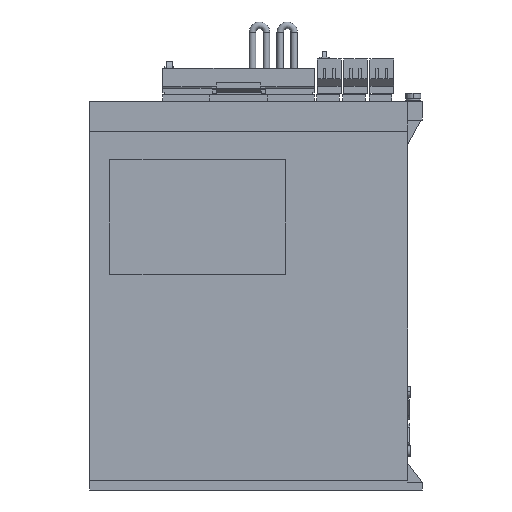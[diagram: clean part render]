
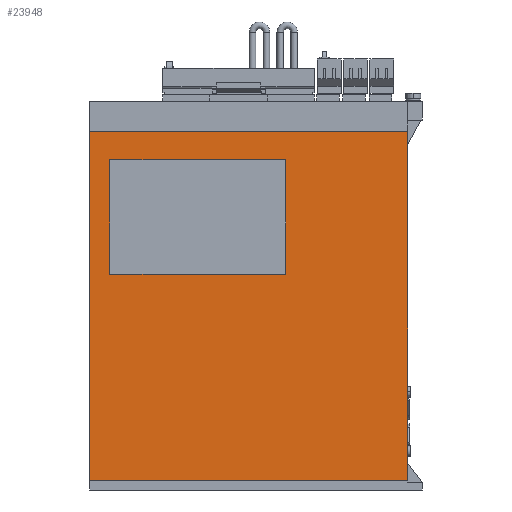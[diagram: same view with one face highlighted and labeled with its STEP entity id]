
A CAD part, left-side view. The second image highlights one B-rep face of the part: STEP entity #23948.
In plain terms, the highlighted planar face has unit normal (-1, 0, 0).
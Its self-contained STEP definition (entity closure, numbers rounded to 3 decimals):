
#22490 = VERTEX_POINT ( 'NONE', #46684 ) ;
#22492 = EDGE_CURVE ( 'NONE', #22490, #22493, #46746, .T. ) ;
#22493 = VERTEX_POINT ( 'NONE', #46742 ) ;
#23619 = VERTEX_POINT ( 'NONE', #48662 ) ;
#23686 = EDGE_CURVE ( 'NONE', #23687, #23619, #48745, .T. ) ;
#23687 = VERTEX_POINT ( 'NONE', #48741 ) ;
#23929 = VERTEX_POINT ( 'NONE', #49178 ) ;
#23930 = ORIENTED_EDGE ( 'NONE', *, *, #23931, .F. ) ;
#23931 = EDGE_CURVE ( 'NONE', #23932, #23929, #49177, .T. ) ;
#23932 = VERTEX_POINT ( 'NONE', #49172 ) ;
#23933 = ORIENTED_EDGE ( 'NONE', *, *, #23934, .F. ) ;
#23934 = EDGE_CURVE ( 'NONE', #24011, #23932, #49171, .T. ) ;
#23935 = EDGE_LOOP ( 'NONE', ( #23936, #23938, #23996, #23998 ) ) ;
#23936 = ORIENTED_EDGE ( 'NONE', *, *, #23937, .T. ) ;
#23937 = EDGE_CURVE ( 'NONE', #23619, #22493, #49167, .T. ) ;
#23938 = ORIENTED_EDGE ( 'NONE', *, *, #22492, .F. ) ;
#23948 = ADVANCED_FACE ( 'NONE', ( #49149, #49148 ), #49147, .F. ) ;
#23949 = EDGE_LOOP ( 'NONE', ( #23950, #24012, #23930, #23933 ) ) ;
#23950 = ORIENTED_EDGE ( 'NONE', *, *, #24009, .F. ) ;
#23996 = ORIENTED_EDGE ( 'NONE', *, *, #23997, .F. ) ;
#23997 = EDGE_CURVE ( 'NONE', #23687, #22490, #49256, .T. ) ;
#23998 = ORIENTED_EDGE ( 'NONE', *, *, #23686, .T. ) ;
#24009 = EDGE_CURVE ( 'NONE', #24010, #24011, #49295, .T. ) ;
#24010 = VERTEX_POINT ( 'NONE', #49291 ) ;
#24011 = VERTEX_POINT ( 'NONE', #49290 ) ;
#24012 = ORIENTED_EDGE ( 'NONE', *, *, #24013, .F. ) ;
#24013 = EDGE_CURVE ( 'NONE', #23929, #24010, #49289, .T. ) ;
#46684 = CARTESIAN_POINT ( 'NONE',  ( -65., -167., 193.8 ) ) ;
#46742 = CARTESIAN_POINT ( 'NONE',  ( -65., -167., 5.2 ) ) ;
#46743 = DIRECTION ( 'NONE',  ( 0., 0., -1. ) ) ;
#46744 = VECTOR ( 'NONE', #46743, 1000. ) ;
#46745 = CARTESIAN_POINT ( 'NONE',  ( -65., -167., 379.699 ) ) ;
#46746 = LINE ( 'NONE', #46745, #46744 ) ;
#48662 = CARTESIAN_POINT ( 'NONE',  ( -65., 5., 5.2 ) ) ;
#48741 = CARTESIAN_POINT ( 'NONE',  ( -65., 5., 193.8 ) ) ;
#48742 = DIRECTION ( 'NONE',  ( 0., 0., -1. ) ) ;
#48743 = VECTOR ( 'NONE', #48742, 1000. ) ;
#48744 = CARTESIAN_POINT ( 'NONE',  ( -65., 5., 379.699 ) ) ;
#48745 = LINE ( 'NONE', #48744, #48743 ) ;
#49147 = PLANE ( 'NONE',  #49208 ) ;
#49148 = FACE_OUTER_BOUND ( 'NONE', #23935, .T. ) ;
#49149 = FACE_BOUND ( 'NONE', #23949, .T. ) ;
#49164 = DIRECTION ( 'NONE',  ( 0., -1., 0. ) ) ;
#49165 = VECTOR ( 'NONE', #49164, 1000. ) ;
#49166 = CARTESIAN_POINT ( 'NONE',  ( -65., 5., 5.2 ) ) ;
#49167 = LINE ( 'NONE', #49166, #49165 ) ;
#49168 = DIRECTION ( 'NONE',  ( 0., 1., 0. ) ) ;
#49169 = VECTOR ( 'NONE', #49168, 1000. ) ;
#49170 = CARTESIAN_POINT ( 'NONE',  ( -65., -6., 178.6 ) ) ;
#49171 = LINE ( 'NONE', #49170, #49169 ) ;
#49172 = CARTESIAN_POINT ( 'NONE',  ( -65., -6., 178.6 ) ) ;
#49174 = DIRECTION ( 'NONE',  ( 0., 0., -1. ) ) ;
#49175 = VECTOR ( 'NONE', #49174, 1000. ) ;
#49176 = CARTESIAN_POINT ( 'NONE',  ( -65., -6., 116.6 ) ) ;
#49177 = LINE ( 'NONE', #49176, #49175 ) ;
#49178 = CARTESIAN_POINT ( 'NONE',  ( -65., -6., 116.6 ) ) ;
#49205 = DIRECTION ( 'NONE',  ( 0., 0., -1. ) ) ;
#49206 = DIRECTION ( 'NONE',  ( 1., 0., 0. ) ) ;
#49207 = CARTESIAN_POINT ( 'NONE',  ( -65., 5., 379.699 ) ) ;
#49208 = AXIS2_PLACEMENT_3D ( 'NONE', #49207, #49206, #49205 ) ;
#49253 = DIRECTION ( 'NONE',  ( 0., -1., 0. ) ) ;
#49254 = VECTOR ( 'NONE', #49253, 1000. ) ;
#49255 = CARTESIAN_POINT ( 'NONE',  ( -65., 5., 193.8 ) ) ;
#49256 = LINE ( 'NONE', #49255, #49254 ) ;
#49286 = DIRECTION ( 'NONE',  ( 0., -1., 0. ) ) ;
#49287 = VECTOR ( 'NONE', #49286, 1000. ) ;
#49288 = CARTESIAN_POINT ( 'NONE',  ( -65., -6., 116.6 ) ) ;
#49289 = LINE ( 'NONE', #49288, #49287 ) ;
#49290 = CARTESIAN_POINT ( 'NONE',  ( -65., -101., 178.6 ) ) ;
#49291 = CARTESIAN_POINT ( 'NONE',  ( -65., -101., 116.6 ) ) ;
#49292 = DIRECTION ( 'NONE',  ( 0., 0., 1. ) ) ;
#49293 = VECTOR ( 'NONE', #49292, 1000. ) ;
#49294 = CARTESIAN_POINT ( 'NONE',  ( -65., -101., 116.6 ) ) ;
#49295 = LINE ( 'NONE', #49294, #49293 ) ;
